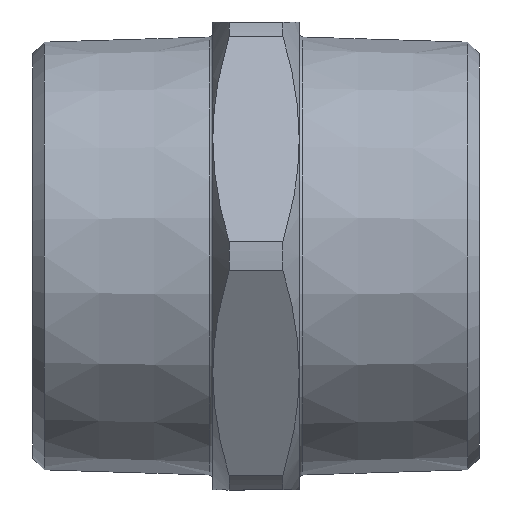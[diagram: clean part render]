
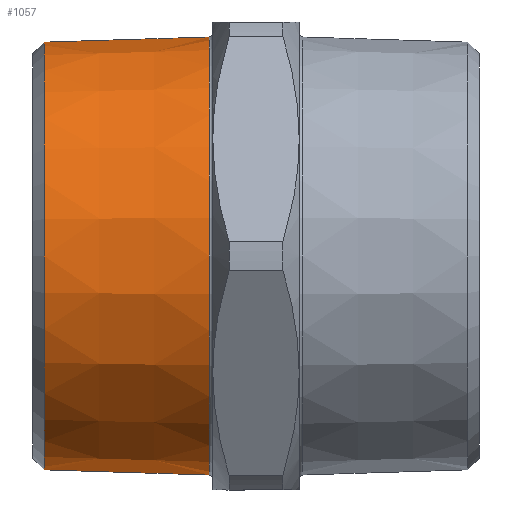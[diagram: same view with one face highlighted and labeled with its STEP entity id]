
A CAD part, front view. The second image highlights one B-rep face of the part: STEP entity #1057.
In plain terms, the highlighted conical face has half-angle 1.79 degrees and reference radius 29.7 mm.
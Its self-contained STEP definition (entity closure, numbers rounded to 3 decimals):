
#54 = EDGE_LOOP ( 'NONE', ( #226, #237, #224, #223 ) ) ;
#75 = VERTEX_POINT ( 'NONE', #399 ) ;
#76 = VERTEX_POINT ( 'NONE', #413 ) ;
#89 = VERTEX_POINT ( 'NONE', #377 ) ;
#96 = VERTEX_POINT ( 'NONE', #366 ) ;
#223 = ORIENTED_EDGE ( 'NONE', *, *, #1107, .T. ) ;
#224 = ORIENTED_EDGE ( 'NONE', *, *, #1130, .T. ) ;
#226 = ORIENTED_EDGE ( 'NONE', *, *, #1128, .F. ) ;
#237 = ORIENTED_EDGE ( 'NONE', *, *, #1159, .T. ) ;
#366 = CARTESIAN_POINT ( 'NONE',  ( -37.484, 0., -30.416 ) ) ;
#377 = CARTESIAN_POINT ( 'NONE',  ( -60.4, 0., 29.7 ) ) ;
#399 = CARTESIAN_POINT ( 'NONE',  ( -37.484, 0., 30.416 ) ) ;
#400 = DIRECTION ( 'NONE',  ( 0., 0., -1. ) ) ;
#401 = DIRECTION ( 'NONE',  ( 1., 0., 0. ) ) ;
#402 = CARTESIAN_POINT ( 'NONE',  ( -60.4, 0., 0. ) ) ;
#413 = CARTESIAN_POINT ( 'NONE',  ( -60.4, 0., -29.7 ) ) ;
#504 = DIRECTION ( 'NONE',  ( 1., 0., 0.031 ) ) ;
#505 = CARTESIAN_POINT ( 'NONE',  ( -60.4, 0., -29.7 ) ) ;
#510 = DIRECTION ( 'NONE',  ( 1., 0., -0.031 ) ) ;
#511 = CARTESIAN_POINT ( 'NONE',  ( -60.4, 0., 29.7 ) ) ;
#557 = DIRECTION ( 'NONE',  ( 0., 0., -1. ) ) ;
#558 = DIRECTION ( 'NONE',  ( -1., 0., 0. ) ) ;
#559 = CARTESIAN_POINT ( 'NONE',  ( -37.484, 0., 0. ) ) ;
#751 = CARTESIAN_POINT ( 'NONE',  ( -60.4, 0., 0. ) ) ;
#753 = DIRECTION ( 'NONE',  ( 1., 0., 0. ) ) ;
#755 = DIRECTION ( 'NONE',  ( 0., 0., -1. ) ) ;
#1057 = ADVANCED_FACE ( 'NONE', ( #1546 ), #1461, .T. ) ;
#1107 = EDGE_CURVE ( 'NONE', #96, #75, #1342, .T. ) ;
#1128 = EDGE_CURVE ( 'NONE', #89, #75, #1363, .T. ) ;
#1130 = EDGE_CURVE ( 'NONE', #76, #96, #1368, .T. ) ;
#1159 = EDGE_CURVE ( 'NONE', #89, #76, #1422, .T. ) ;
#1225 = AXIS2_PLACEMENT_3D ( 'NONE', #751, #753, #755 ) ;
#1256 = AXIS2_PLACEMENT_3D ( 'NONE', #559, #558, #557 ) ;
#1292 = AXIS2_PLACEMENT_3D ( 'NONE', #402, #401, #400 ) ;
#1342 = CIRCLE ( 'NONE', #1256, 30.416 ) ;
#1363 = LINE ( 'NONE', #511, #1515 ) ;
#1368 = LINE ( 'NONE', #505, #1518 ) ;
#1422 = CIRCLE ( 'NONE', #1292, 29.7 ) ;
#1461 = CONICAL_SURFACE ( 'NONE', #1225, 29.7, 0.031 ) ;
#1515 = VECTOR ( 'NONE', #504, 1000. ) ;
#1518 = VECTOR ( 'NONE', #510, 1000. ) ;
#1546 = FACE_OUTER_BOUND ( 'NONE', #54, .T. ) ;
